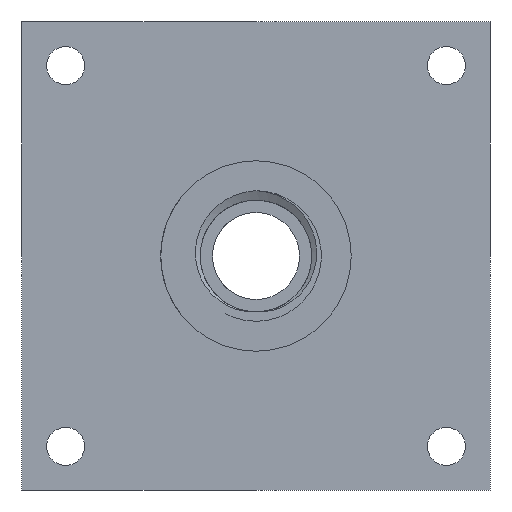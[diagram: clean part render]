
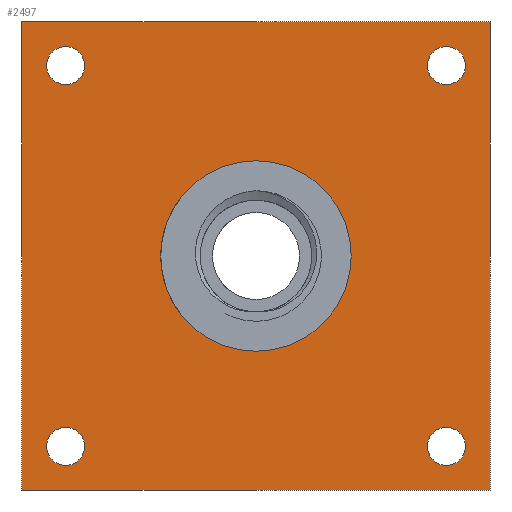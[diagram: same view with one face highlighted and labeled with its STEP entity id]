
A CAD part, left-side view. The second image highlights one B-rep face of the part: STEP entity #2497.
In plain terms, the highlighted planar face has unit normal (-1, 0, 0).
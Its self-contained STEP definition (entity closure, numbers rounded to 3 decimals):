
#22 = CARTESIAN_POINT ( 'NONE',  ( 282., -43., -43. ) ) ;
#30 = CIRCLE ( 'NONE', #2818, 3.5 ) ;
#98 = DIRECTION ( 'NONE',  ( 1., 0., 0. ) ) ;
#120 = EDGE_LOOP ( 'NONE', ( #911, #1635 ) ) ;
#179 = EDGE_LOOP ( 'NONE', ( #527, #484, #1174, #2492 ) ) ;
#217 = LINE ( 'NONE', #1861, #2721 ) ;
#232 = EDGE_CURVE ( 'NONE', #1905, #777, #1508, .T. ) ;
#238 = CARTESIAN_POINT ( 'NONE',  ( 282., -35., -35. ) ) ;
#289 = EDGE_CURVE ( 'NONE', #1452, #1055, #1673, .T. ) ;
#330 = VERTEX_POINT ( 'NONE', #2613 ) ;
#341 = PLANE ( 'NONE',  #1269 ) ;
#349 = CARTESIAN_POINT ( 'NONE',  ( 282., 35., -35. ) ) ;
#360 = CIRCLE ( 'NONE', #2176, 3.5 ) ;
#374 = DIRECTION ( 'NONE',  ( 0., 0., 1. ) ) ;
#387 = DIRECTION ( 'NONE',  ( 1., 0., 0. ) ) ;
#393 = CARTESIAN_POINT ( 'NONE',  ( 282., 43., -43. ) ) ;
#419 = EDGE_CURVE ( 'NONE', #785, #489, #1211, .T. ) ;
#445 = EDGE_CURVE ( 'NONE', #1957, #1357, #1783, .T. ) ;
#467 = EDGE_CURVE ( 'NONE', #2750, #1525, #360, .T. ) ;
#484 = ORIENTED_EDGE ( 'NONE', *, *, #289, .F. ) ;
#489 = VERTEX_POINT ( 'NONE', #2874 ) ;
#527 = ORIENTED_EDGE ( 'NONE', *, *, #2916, .F. ) ;
#533 = DIRECTION ( 'NONE',  ( 1., 0., 0. ) ) ;
#543 = CARTESIAN_POINT ( 'NONE',  ( 282., -43., -43. ) ) ;
#547 = CARTESIAN_POINT ( 'NONE',  ( 282., 35., -31.5 ) ) ;
#573 = CIRCLE ( 'NONE', #1032, 3.5 ) ;
#663 = DIRECTION ( 'NONE',  ( 1., 0., 0. ) ) ;
#727 = LINE ( 'NONE', #22, #955 ) ;
#755 = DIRECTION ( 'NONE',  ( 0., 0., 1. ) ) ;
#777 = VERTEX_POINT ( 'NONE', #2787 ) ;
#785 = VERTEX_POINT ( 'NONE', #2537 ) ;
#796 = DIRECTION ( 'NONE',  ( 0., 1., 0. ) ) ;
#824 = EDGE_LOOP ( 'NONE', ( #2344, #2601 ) ) ;
#838 = CARTESIAN_POINT ( 'NONE',  ( 282., -43., -43. ) ) ;
#854 = VECTOR ( 'NONE', #1106, 1000. ) ;
#873 = CARTESIAN_POINT ( 'NONE',  ( 282., 43., 43. ) ) ;
#889 = DIRECTION ( 'NONE',  ( 0., 0., -1. ) ) ;
#902 = CARTESIAN_POINT ( 'NONE',  ( 282., 35., -35. ) ) ;
#911 = ORIENTED_EDGE ( 'NONE', *, *, #232, .T. ) ;
#955 = VECTOR ( 'NONE', #2459, 1000. ) ;
#1032 = AXIS2_PLACEMENT_3D ( 'NONE', #2232, #1510, #2731 ) ;
#1055 = VERTEX_POINT ( 'NONE', #873 ) ;
#1063 = CARTESIAN_POINT ( 'NONE',  ( 282., 35., 31.5 ) ) ;
#1106 = DIRECTION ( 'NONE',  ( 0., 0., 1. ) ) ;
#1123 = CARTESIAN_POINT ( 'NONE',  ( 282., -35., -35. ) ) ;
#1131 = VERTEX_POINT ( 'NONE', #838 ) ;
#1144 = CIRCLE ( 'NONE', #2080, 3.5 ) ;
#1174 = ORIENTED_EDGE ( 'NONE', *, *, #1443, .F. ) ;
#1190 = EDGE_LOOP ( 'NONE', ( #2726, #1747 ) ) ;
#1211 = CIRCLE ( 'NONE', #1756, 17.5 ) ;
#1219 = EDGE_CURVE ( 'NONE', #1525, #2750, #573, .T. ) ;
#1262 = CARTESIAN_POINT ( 'NONE',  ( 282., 35., -38.5 ) ) ;
#1269 = AXIS2_PLACEMENT_3D ( 'NONE', #1606, #98, #2543 ) ;
#1273 = DIRECTION ( 'NONE',  ( 0., 0., 1. ) ) ;
#1341 = CARTESIAN_POINT ( 'NONE',  ( 282., 0., 0. ) ) ;
#1351 = DIRECTION ( 'NONE',  ( -1., 0., 0. ) ) ;
#1357 = VERTEX_POINT ( 'NONE', #1262 ) ;
#1443 = EDGE_CURVE ( 'NONE', #1131, #1452, #1490, .T. ) ;
#1448 = CARTESIAN_POINT ( 'NONE',  ( 282., -43., 43. ) ) ;
#1452 = VERTEX_POINT ( 'NONE', #2949 ) ;
#1490 = LINE ( 'NONE', #543, #2210 ) ;
#1508 = CIRCLE ( 'NONE', #2014, 3.5 ) ;
#1510 = DIRECTION ( 'NONE',  ( 1., 0., 0. ) ) ;
#1524 = CARTESIAN_POINT ( 'NONE',  ( 282., 35., 38.5 ) ) ;
#1525 = VERTEX_POINT ( 'NONE', #1524 ) ;
#1537 = DIRECTION ( 'NONE',  ( 1., 0., 0. ) ) ;
#1594 = FACE_OUTER_BOUND ( 'NONE', #179, .T. ) ;
#1601 = CIRCLE ( 'NONE', #2185, 3.5 ) ;
#1606 = CARTESIAN_POINT ( 'NONE',  ( 282., 0., 0. ) ) ;
#1617 = DIRECTION ( 'NONE',  ( 0., 0., -1. ) ) ;
#1635 = ORIENTED_EDGE ( 'NONE', *, *, #2109, .T. ) ;
#1649 = CARTESIAN_POINT ( 'NONE',  ( 282., 0., 0. ) ) ;
#1673 = LINE ( 'NONE', #393, #854 ) ;
#1681 = DIRECTION ( 'NONE',  ( 1., 0., 0. ) ) ;
#1682 = FACE_BOUND ( 'NONE', #1869, .T. ) ;
#1726 = ORIENTED_EDGE ( 'NONE', *, *, #2430, .F. ) ;
#1747 = ORIENTED_EDGE ( 'NONE', *, *, #1219, .T. ) ;
#1756 = AXIS2_PLACEMENT_3D ( 'NONE', #1649, #2144, #1927 ) ;
#1783 = CIRCLE ( 'NONE', #2271, 3.5 ) ;
#1785 = VERTEX_POINT ( 'NONE', #1448 ) ;
#1798 = CIRCLE ( 'NONE', #2666, 17.5 ) ;
#1836 = DIRECTION ( 'NONE',  ( 1., 0., 0. ) ) ;
#1861 = CARTESIAN_POINT ( 'NONE',  ( 282., -43., 43. ) ) ;
#1869 = EDGE_LOOP ( 'NONE', ( #2302, #2304 ) ) ;
#1883 = EDGE_CURVE ( 'NONE', #1785, #1131, #727, .T. ) ;
#1901 = VERTEX_POINT ( 'NONE', #2218 ) ;
#1902 = DIRECTION ( 'NONE',  ( 0., 0., 1. ) ) ;
#1905 = VERTEX_POINT ( 'NONE', #2963 ) ;
#1927 = DIRECTION ( 'NONE',  ( 0., 0., -1. ) ) ;
#1957 = VERTEX_POINT ( 'NONE', #547 ) ;
#2014 = AXIS2_PLACEMENT_3D ( 'NONE', #1123, #387, #1617 ) ;
#2075 = EDGE_LOOP ( 'NONE', ( #1726, #3055 ) ) ;
#2080 = AXIS2_PLACEMENT_3D ( 'NONE', #2942, #533, #755 ) ;
#2088 = EDGE_CURVE ( 'NONE', #330, #1901, #1144, .T. ) ;
#2109 = EDGE_CURVE ( 'NONE', #777, #1905, #1601, .T. ) ;
#2144 = DIRECTION ( 'NONE',  ( -1., 0., 0. ) ) ;
#2176 = AXIS2_PLACEMENT_3D ( 'NONE', #3084, #1681, #889 ) ;
#2185 = AXIS2_PLACEMENT_3D ( 'NONE', #238, #2219, #2668 ) ;
#2210 = VECTOR ( 'NONE', #796, 1000. ) ;
#2218 = CARTESIAN_POINT ( 'NONE',  ( 282., -35., 31.5 ) ) ;
#2219 = DIRECTION ( 'NONE',  ( 1., 0., 0. ) ) ;
#2232 = CARTESIAN_POINT ( 'NONE',  ( 282., 35., 35. ) ) ;
#2237 = FACE_BOUND ( 'NONE', #1190, .T. ) ;
#2242 = AXIS2_PLACEMENT_3D ( 'NONE', #2715, #1537, #1273 ) ;
#2248 = EDGE_CURVE ( 'NONE', #1901, #330, #2576, .T. ) ;
#2271 = AXIS2_PLACEMENT_3D ( 'NONE', #902, #663, #1902 ) ;
#2302 = ORIENTED_EDGE ( 'NONE', *, *, #2248, .T. ) ;
#2304 = ORIENTED_EDGE ( 'NONE', *, *, #2088, .T. ) ;
#2344 = ORIENTED_EDGE ( 'NONE', *, *, #2565, .T. ) ;
#2430 = EDGE_CURVE ( 'NONE', #489, #785, #1798, .T. ) ;
#2459 = DIRECTION ( 'NONE',  ( 0., 0., -1. ) ) ;
#2492 = ORIENTED_EDGE ( 'NONE', *, *, #1883, .F. ) ;
#2497 = ADVANCED_FACE ( 'NONE', ( #2879, #1682, #3071, #2571, #2237, #1594 ), #341, .F. ) ;
#2537 = CARTESIAN_POINT ( 'NONE',  ( 282., 0., 17.5 ) ) ;
#2543 = DIRECTION ( 'NONE',  ( 0., 0., -1. ) ) ;
#2565 = EDGE_CURVE ( 'NONE', #1357, #1957, #30, .T. ) ;
#2567 = DIRECTION ( 'NONE',  ( 0., 0., -1. ) ) ;
#2568 = DIRECTION ( 'NONE',  ( 0., -1., 0. ) ) ;
#2571 = FACE_BOUND ( 'NONE', #824, .T. ) ;
#2576 = CIRCLE ( 'NONE', #2242, 3.5 ) ;
#2601 = ORIENTED_EDGE ( 'NONE', *, *, #445, .T. ) ;
#2613 = CARTESIAN_POINT ( 'NONE',  ( 282., -35., 38.5 ) ) ;
#2666 = AXIS2_PLACEMENT_3D ( 'NONE', #1341, #1351, #2567 ) ;
#2668 = DIRECTION ( 'NONE',  ( 0., 0., -1. ) ) ;
#2715 = CARTESIAN_POINT ( 'NONE',  ( 282., -35., 35. ) ) ;
#2721 = VECTOR ( 'NONE', #2568, 1000. ) ;
#2726 = ORIENTED_EDGE ( 'NONE', *, *, #467, .T. ) ;
#2731 = DIRECTION ( 'NONE',  ( 0., 0., -1. ) ) ;
#2750 = VERTEX_POINT ( 'NONE', #1063 ) ;
#2787 = CARTESIAN_POINT ( 'NONE',  ( 282., -35., -31.5 ) ) ;
#2818 = AXIS2_PLACEMENT_3D ( 'NONE', #349, #1836, #374 ) ;
#2874 = CARTESIAN_POINT ( 'NONE',  ( 282., 0., -17.5 ) ) ;
#2879 = FACE_BOUND ( 'NONE', #2075, .T. ) ;
#2916 = EDGE_CURVE ( 'NONE', #1055, #1785, #217, .T. ) ;
#2942 = CARTESIAN_POINT ( 'NONE',  ( 282., -35., 35. ) ) ;
#2949 = CARTESIAN_POINT ( 'NONE',  ( 282., 43., -43. ) ) ;
#2963 = CARTESIAN_POINT ( 'NONE',  ( 282., -35., -38.5 ) ) ;
#3055 = ORIENTED_EDGE ( 'NONE', *, *, #419, .F. ) ;
#3071 = FACE_BOUND ( 'NONE', #120, .T. ) ;
#3084 = CARTESIAN_POINT ( 'NONE',  ( 282., 35., 35. ) ) ;
